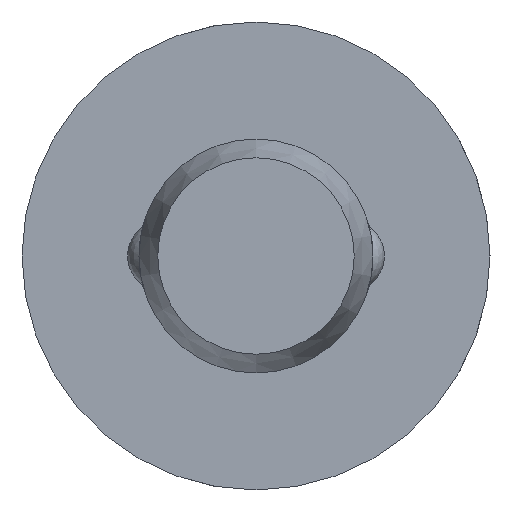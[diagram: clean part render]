
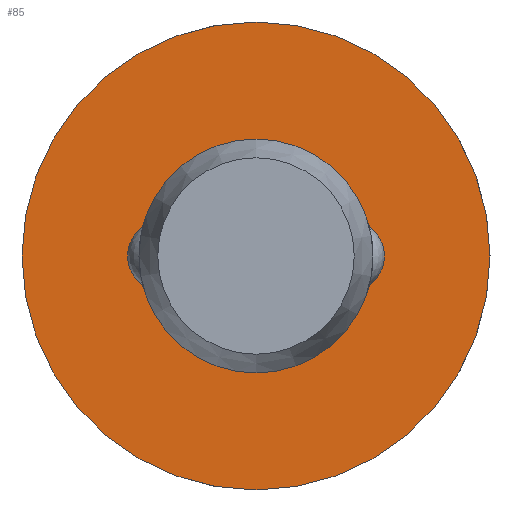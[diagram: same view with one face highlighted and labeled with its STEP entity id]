
A CAD part, left-side view. The second image highlights one B-rep face of the part: STEP entity #85.
In plain terms, the highlighted planar face has unit normal (-1, 0, 0).
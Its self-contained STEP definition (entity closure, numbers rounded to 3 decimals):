
#85 = ADVANCED_FACE( '', ( #131, #132 ), #133, .F. );
#131 = FACE_OUTER_BOUND( '', #204, .T. );
#132 = FACE_BOUND( '', #205, .T. );
#133 = PLANE( '', #206 );
#204 = EDGE_LOOP( '', ( #322 ) );
#205 = EDGE_LOOP( '', ( #323 ) );
#206 = AXIS2_PLACEMENT_3D( '', #324, #325, #326 );
#322 = ORIENTED_EDGE( '', *, *, #470, .F. );
#323 = ORIENTED_EDGE( '', *, *, #467, .T. );
#324 = CARTESIAN_POINT( '', ( 16., 2.5, 0. ) );
#325 = DIRECTION( '', ( 1., 0., 0. ) );
#326 = DIRECTION( '', ( 0., 0., -1. ) );
#467 = EDGE_CURVE( '', #541, #541, #542, .T. );
#470 = EDGE_CURVE( '', #547, #547, #548, .T. );
#541 = VERTEX_POINT( '', #749 );
#542 = CIRCLE( '', #750, 2.5 );
#547 = VERTEX_POINT( '', #801 );
#548 = CIRCLE( '', #802, 5. );
#749 = CARTESIAN_POINT( '', ( 16., 0., -2.5 ) );
#750 = AXIS2_PLACEMENT_3D( '', #881, #882, #883 );
#801 = CARTESIAN_POINT( '', ( 16., 0., -5. ) );
#802 = AXIS2_PLACEMENT_3D( '', #884, #885, #886 );
#881 = CARTESIAN_POINT( '', ( 16., 0., 0. ) );
#882 = DIRECTION( '', ( 1., 0., 0. ) );
#883 = DIRECTION( '', ( 0., 0., -1. ) );
#884 = CARTESIAN_POINT( '', ( 16., 0., 0. ) );
#885 = DIRECTION( '', ( 1., 0., 0. ) );
#886 = DIRECTION( '', ( 0., 0., -1. ) );
